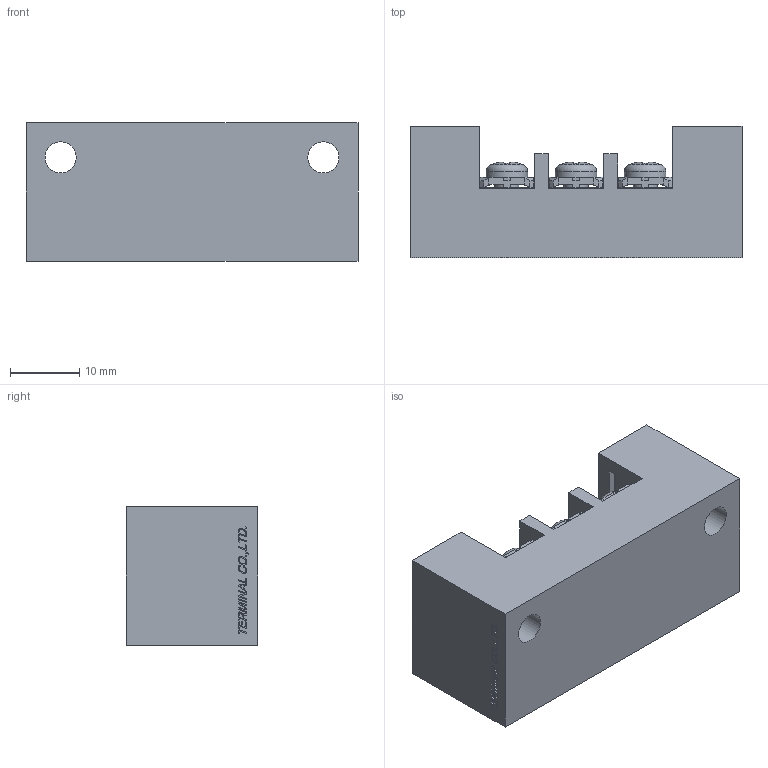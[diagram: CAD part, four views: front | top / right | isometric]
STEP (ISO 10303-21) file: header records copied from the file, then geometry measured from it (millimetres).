
FILE_DESCRIPTION(/* description */ ('Alibre Inc.'),/* implementation_level */ '2;1');
FILE_NAME(/* name */ 'export0',/* time_stamp */ '2016-02-13T17:48:55+09:00',/* author */ (''),/* organization */ (''),/* preprocessor_version */ 'ST-DEVELOPER v14',/* originating_system */ 'Alibre',/* authorisation */ '');
FILE_SCHEMA (('CONFIG_CONTROL_DESIGN'));
Length unit declared in the file: centimetre
Products named in the file (1): ID_1
Bounding box: 48 x 19 x 20 mm (x, y, z)
Volume: 13107.9 mm3; surface area: 6871.7 mm2
Topology: 1 solids, 7 shells, 767 faces, 2064 edges, 1316 vertices
Faces by surface type: plane 525, bspline 148, cone 30, extrusion 24, cylinder 22, sphere 12, torus 6
Full cylindrical faces by diameter (mm): 3.5 x12, 4.5 x2, 6 x6, 7 x2
Entity records: 26674 total; most frequent: CARTESIAN_POINT 9489, ORIENTED_EDGE 4036, DIRECTION 2437, EDGE_CURVE 2018, VECTOR 1415, LINE 1403, VERTEX_POINT 1304, EDGE_LOOP 864
